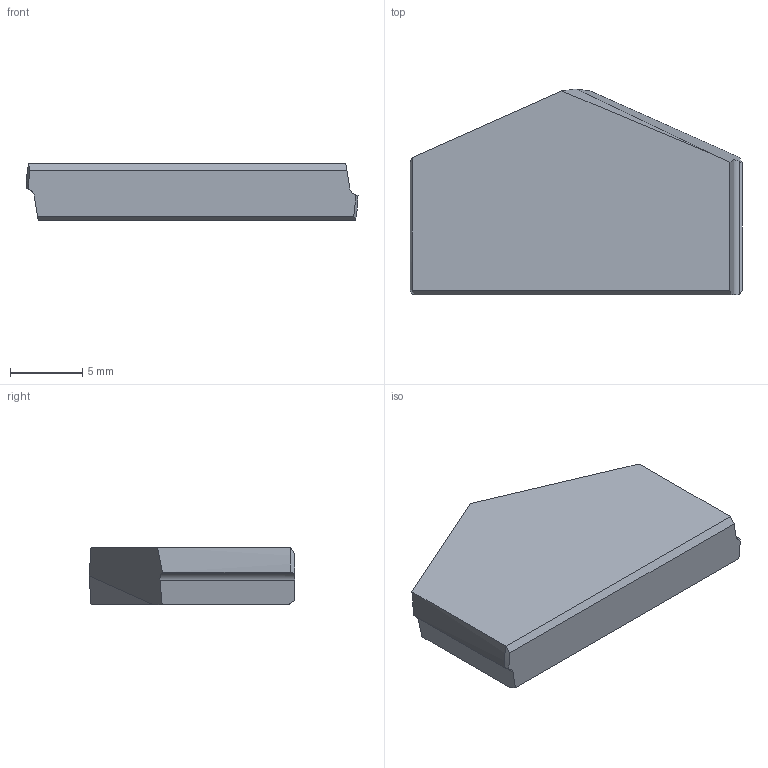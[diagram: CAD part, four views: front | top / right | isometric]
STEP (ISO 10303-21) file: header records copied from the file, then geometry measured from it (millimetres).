
FILE_DESCRIPTION (( 'STEP AP214' ), '1' );
FILE_NAME ('29-32.STEP', '2022-06-24T05:45:45', ( '' ), ( '' ), 'SwSTEP 2.0', 'SolidWorks 2018', '' );
FILE_SCHEMA (( 'AUTOMOTIVE_DESIGN' ));
Length unit declared in the file: millimetre
Products named in the file (1): 29-32
Bounding box: 23.01 x 14.25 x 4 mm (x, y, z)
Volume: 1042.7 mm3; surface area: 774.7 mm2
Topology: 1 solids, 1 shells, 19 faces, 50 edges, 33 vertices
Faces by surface type: plane 13, cylinder 4, cone 2
Entity records: 620 total; most frequent: CARTESIAN_POINT 133, ORIENTED_EDGE 100, DIRECTION 86, EDGE_CURVE 50, VECTOR 34, LINE 34, VERTEX_POINT 33, AXIS2_PLACEMENT_3D 26
